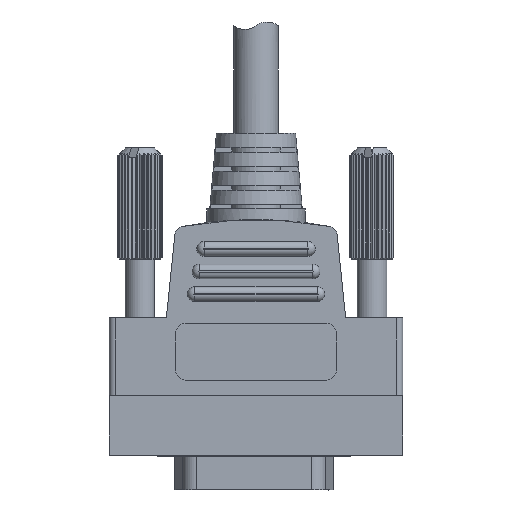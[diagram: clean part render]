
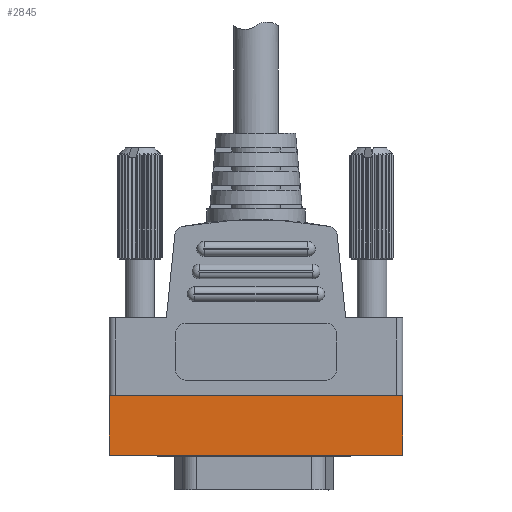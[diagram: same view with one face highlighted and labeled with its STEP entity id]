
A CAD part, front view. The second image highlights one B-rep face of the part: STEP entity #2845.
In plain terms, the highlighted planar face has unit normal (0, -1, 0).
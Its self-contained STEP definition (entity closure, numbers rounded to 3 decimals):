
#1164 = EDGE_LOOP ( 'NONE', ( #16399, #10978, #10710, #13678 ) ) ;
#1448 = CARTESIAN_POINT ( 'NONE',  ( 0., 0., 0. ) ) ;
#2147 = LINE ( 'NONE', #7315, #8047 ) ;
#2689 = VERTEX_POINT ( 'NONE', #13047 ) ;
#2845 = ADVANCED_FACE ( 'NONE', ( #17909 ), #5501, .T. ) ;
#3670 = VECTOR ( 'NONE', #7653, 1000. ) ;
#4138 = EDGE_CURVE ( 'NONE', #10714, #17146, #2147, .T. ) ;
#4196 = EDGE_CURVE ( 'NONE', #15033, #17146, #7760, .T. ) ;
#5501 = PLANE ( 'NONE',  #8631 ) ;
#7297 = LINE ( 'NONE', #16023, #9593 ) ;
#7315 = CARTESIAN_POINT ( 'NONE',  ( 39.522, 0., 8.01 ) ) ;
#7653 = DIRECTION ( 'NONE',  ( 0., 0., 1. ) ) ;
#7760 = LINE ( 'NONE', #7866, #3670 ) ;
#7866 = CARTESIAN_POINT ( 'NONE',  ( 0., 0., 0. ) ) ;
#8047 = VECTOR ( 'NONE', #9155, 1000. ) ;
#8631 = AXIS2_PLACEMENT_3D ( 'NONE', #19613, #12437, #19394 ) ;
#9155 = DIRECTION ( 'NONE',  ( -1., 0., 0. ) ) ;
#9593 = VECTOR ( 'NONE', #14103, 1000. ) ;
#10710 = ORIENTED_EDGE ( 'NONE', *, *, #4138, .T. ) ;
#10714 = VERTEX_POINT ( 'NONE', #18667 ) ;
#10978 = ORIENTED_EDGE ( 'NONE', *, *, #11414, .F. ) ;
#11414 = EDGE_CURVE ( 'NONE', #10714, #2689, #7297, .T. ) ;
#12437 = DIRECTION ( 'NONE',  ( 0., -1., 0. ) ) ;
#13047 = CARTESIAN_POINT ( 'NONE',  ( 39.522, 0., 0. ) ) ;
#13678 = ORIENTED_EDGE ( 'NONE', *, *, #4196, .F. ) ;
#14103 = DIRECTION ( 'NONE',  ( 0., 0., -1. ) ) ;
#14558 = EDGE_CURVE ( 'NONE', #15033, #2689, #18626, .T. ) ;
#15007 = CARTESIAN_POINT ( 'NONE',  ( 0., 0., 8.01 ) ) ;
#15033 = VERTEX_POINT ( 'NONE', #1448 ) ;
#16023 = CARTESIAN_POINT ( 'NONE',  ( 39.522, 0., 0. ) ) ;
#16399 = ORIENTED_EDGE ( 'NONE', *, *, #14558, .T. ) ;
#16902 = CARTESIAN_POINT ( 'NONE',  ( 19.761, 0., 0. ) ) ;
#17014 = VECTOR ( 'NONE', #20571, 1000. ) ;
#17146 = VERTEX_POINT ( 'NONE', #15007 ) ;
#17909 = FACE_OUTER_BOUND ( 'NONE', #1164, .T. ) ;
#18626 = LINE ( 'NONE', #16902, #17014 ) ;
#18667 = CARTESIAN_POINT ( 'NONE',  ( 39.522, 0., 8.01 ) ) ;
#19394 = DIRECTION ( 'NONE',  ( 0., 0., -1. ) ) ;
#19613 = CARTESIAN_POINT ( 'NONE',  ( 39.522, 0., 0. ) ) ;
#20571 = DIRECTION ( 'NONE',  ( 1., 0., 0. ) ) ;
